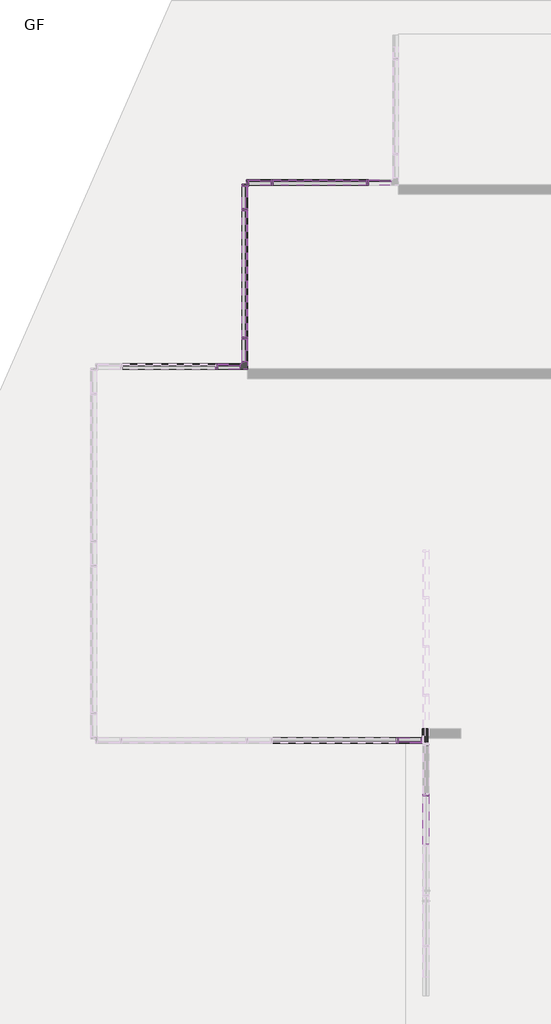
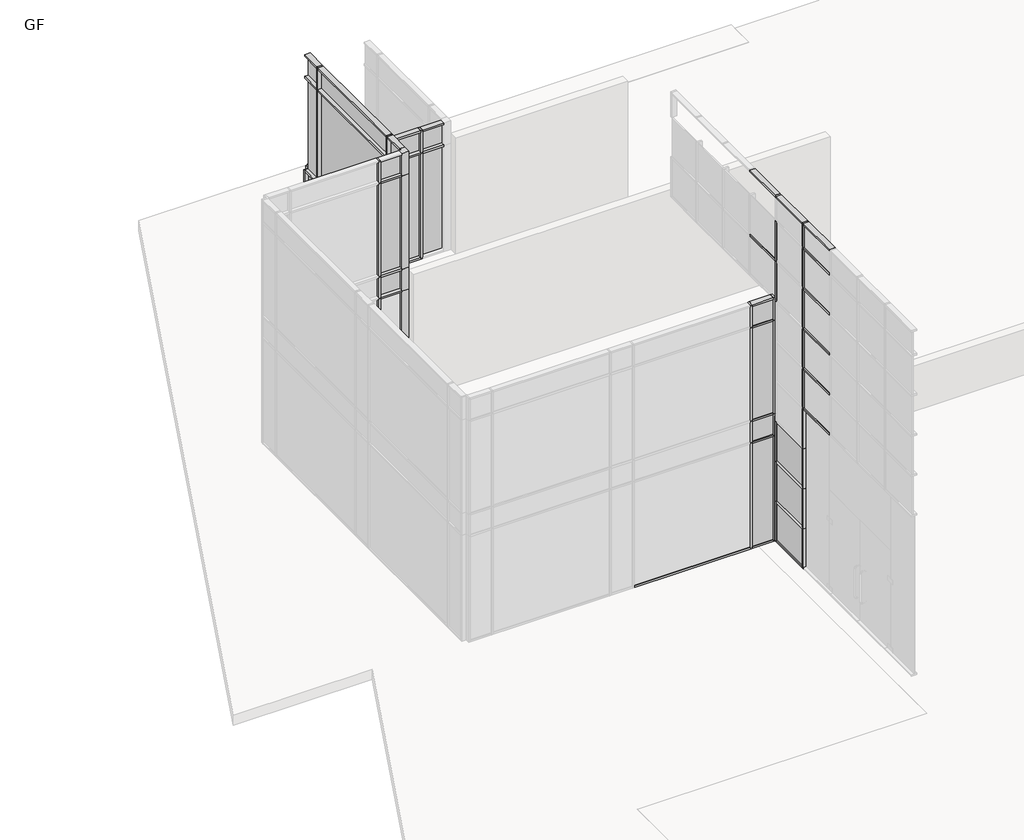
# One storey, part 14 of 23: 88 members, 28 plates, 1 wall.
"""IFC4 building model written with IfcOpenShell, lengths in millimetres."""

from ifc_helpers import new_model, si_unit, origin, place, context, project, spatial, faceted_brep, transform, mapped, element, save
from components import l_corner_mullion_l_mullion_1_9cd6cbfc, l_corner_mullion_l_mullion_1_b1a998e5, l_corner_mullion_l_mullion_1_19861a08, l_corner_mullion_l_mullion_1_830c55f5, rectangular_mullion_50_x_150mm_64d38db8, rectangular_mullion_50_x_150mm_68b3818a, rectangular_mullion_50_x_150mm_0240cd64, rectangular_mullion_50_x_150mm_d11e3bb4, rectangular_mullion_50_x_150mm_7d543e93, rectangular_mullion_50_x_150mm_9e0f1e24, rectangular_mullion_50_x_150mm_9b8962c0, rectangular_mullion_50_x_150mm_32aaa733, rectangular_mullion_50_x_150mm_eae7d4bc, rectangular_mullion_50_x_150mm_dbb82e9e, rectangular_mullion_50_x_150mm_eaf4cf72, rectangular_mullion_50_x_150mm_edc7ebc1, rectangular_mullion_50_x_150mm_24ac0887, rectangular_mullion_50_x_150mm_86a57cfb, rectangular_mullion_50_x_150mm_53b4c1bd, rectangular_mullion_50_x_150mm_a5886fcf, rectangular_mullion_50_x_150mm_d99dc9be, rectangular_mullion_50_x_150mm_6588f46c, rectangular_mullion_50_x_150mm_73a7075e, rectangular_mullion_50_x_150mm_457f9466, rectangular_mullion_50_x_150mm_a24dcaed, rectangular_mullion_50_x_150mm_2a846207, v_corner_mullion_v_mullion_1_7bbb4fbd, v_corner_mullion_v_mullion_1_ba732962, system_panel_glazed_24812111, system_panel_glazed_e5239730, system_panel_glazed_6ff5b55b, system_panel_glazed_93ed122c, system_panel_glazed_a7232eb8, system_panel_glazed_2ee935f9, system_panel_glazed_98bb05ca, system_panel_glazed_9694b00d, system_panel_glazed_772a6538, system_panel_glazed_8d3b8640, system_panel_glazed_208994a9, system_panel_glazed_4108eabc, system_panel_glazed_1cdce68f

model = new_model("IFC4")

# Units and contexts
model_context = context("Model", 3, world=origin())
ifc_project = project(units=[si_unit("LENGTHUNIT", "METRE", prefix="MILLI")], contexts=[model_context])

# Site, building, storey
site = spatial("IfcSite", under=ifc_project)
building = spatial("IfcBuilding", under=site)
storey = spatial("IfcBuildingStorey", under=building, Name="GF", Elevation=900.0)

# Members
placement = place(None, origin())
l_corner_mullion_l_mullion_1_shape = l_corner_mullion_l_mullion_1_9cd6cbfc(model_context)
element("IfcMember", 1, ObjectType="L Corner Mullion : L Mullion 1", at=placement, inside=storey, context=model_context, shape_type="MappedRepresentation", body=[
    mapped(l_corner_mullion_l_mullion_1_shape, transform((-35612.5865899, 11722.3851347, 8200.0), x_axis=(0.0, -1.0, 0.0), y_axis=(1.0, 0.0, 0.0), z_axis=(0.0, 0.0, 1.0))),
])
l_corner_mullion_l_mullion_1_2_shape = l_corner_mullion_l_mullion_1_b1a998e5(model_context)
element("IfcMember", 2, ObjectType="L Corner Mullion : L Mullion 1", at=placement, inside=storey, context=model_context, shape_type="MappedRepresentation", body=[
    mapped(l_corner_mullion_l_mullion_1_2_shape, transform((-35612.5865899, 11722.3851347, 4725.0), x_axis=(0.0, -1.0, 0.0), y_axis=(1.0, 0.0, 0.0), z_axis=(0.0, 0.0, 1.0))),
])
l_corner_mullion_l_mullion_1_3_shape = l_corner_mullion_l_mullion_1_19861a08(model_context)
element("IfcMember", 3, ObjectType="L Corner Mullion : L Mullion 1", at=placement, inside=storey, context=model_context, shape_type="MappedRepresentation", body=[
    mapped(l_corner_mullion_l_mullion_1_3_shape, transform((-35612.5865899, 11722.3851347, 4075.0), x_axis=(0.0, -1.0, 0.0), y_axis=(1.0, 0.0, 0.0), z_axis=(0.0, 0.0, 1.0))),
])
l_corner_mullion_l_mullion_1_4_shape = l_corner_mullion_l_mullion_1_830c55f5(model_context)
element("IfcMember", 4, ObjectType="L Corner Mullion : L Mullion 1", at=placement, inside=storey, context=model_context, shape_type="MappedRepresentation", body=[
    mapped(l_corner_mullion_l_mullion_1_4_shape, transform((-35612.5865899, 11722.3851347, 7525.0), x_axis=(0.0, -1.0, 0.0), y_axis=(1.0, 0.0, 0.0), z_axis=(0.0, 0.0, 1.0))),
])
rectangular_mullion_50_x_150mm_shape = rectangular_mullion_50_x_150mm_64d38db8(model_context)
element("IfcMember", 5, ObjectType="Rectangular Mullion : 50 x 150mm", at=placement, inside=storey, context=model_context, shape_type="MappedRepresentation", body=[
    mapped(rectangular_mullion_50_x_150mm_shape, transform((-31537.5865899, 1822.3851347, 8200.0), x_axis=(0.0, 0.0, 1.0), y_axis=(0.0, 1.0, 0.0), z_axis=(-1.0, 0.0, 0.0))),
])
element("IfcMember", 6, ObjectType="Rectangular Mullion : 50 x 150mm", at=placement, inside=storey, context=model_context, shape_type="MappedRepresentation", body=[
    mapped(rectangular_mullion_50_x_150mm_shape, transform((-30937.5865899, 1822.3851347, 900.0), x_axis=(0.0, 0.0, -1.0), y_axis=(0.0, 1.0, 0.0), z_axis=(1.0, 0.0, 0.0))),
])
rectangular_mullion_50_x_150mm_2_shape = rectangular_mullion_50_x_150mm_68b3818a(model_context)
element("IfcMember", 7, ObjectType="Rectangular Mullion : 50 x 150mm", at=placement, inside=storey, context=model_context, shape_type="MappedRepresentation", body=[
    mapped(rectangular_mullion_50_x_150mm_2_shape, transform((-31537.5865899, 1822.3851347, 7525.0), x_axis=(0.0, 0.0, 1.0), y_axis=(0.0, 1.0, 0.0), z_axis=(-1.0, 0.0, 0.0))),
])
element("IfcMember", 8, ObjectType="Rectangular Mullion : 50 x 150mm", at=placement, inside=storey, context=model_context, shape_type="MappedRepresentation", body=[
    mapped(rectangular_mullion_50_x_150mm_2_shape, transform((-31537.5865899, 1822.3851347, 4075.0), x_axis=(0.0, 0.0, 1.0), y_axis=(0.0, 1.0, 0.0), z_axis=(-1.0, 0.0, 0.0))),
])
element("IfcMember", 9, ObjectType="Rectangular Mullion : 50 x 150mm", at=placement, inside=storey, context=model_context, shape_type="MappedRepresentation", body=[
    mapped(rectangular_mullion_50_x_150mm_2_shape, transform((-31537.5865899, 1822.3851347, 4725.0), x_axis=(0.0, 0.0, 1.0), y_axis=(0.0, 1.0, 0.0), z_axis=(-1.0, 0.0, 0.0))),
])
element("IfcMember", 10, ObjectType="Rectangular Mullion : 50 x 150mm", at=placement, inside=storey, context=model_context, shape_type="MappedRepresentation", body=[
    mapped(rectangular_mullion_50_x_150mm_shape, transform((-35612.5865899, 16497.3851347, 8200.0), x_axis=(0.0, 0.0, 1.0), y_axis=(1.0, 0.0, 0.0), z_axis=(0.0, 1.0, 0.0))),
])
element("IfcMember", 11, ObjectType="Rectangular Mullion : 50 x 150mm", at=placement, inside=storey, context=model_context, shape_type="MappedRepresentation", body=[
    mapped(rectangular_mullion_50_x_150mm_shape, transform((-35512.5865899, 16597.3851347, 4750.0), x_axis=(0.0, 0.0, 1.0), y_axis=(0.0, 1.0, 0.0), z_axis=(-1.0, 0.0, 0.0))),
])
element("IfcMember", 12, ObjectType="Rectangular Mullion : 50 x 150mm", at=placement, inside=storey, context=model_context, shape_type="MappedRepresentation", body=[
    mapped(rectangular_mullion_50_x_150mm_shape, transform((-32337.5865899, 16597.3851347, 4750.0), x_axis=(0.0, 0.0, 1.0), y_axis=(0.0, 1.0, 0.0), z_axis=(-1.0, 0.0, 0.0))),
])
element("IfcMember", 13, ObjectType="Rectangular Mullion : 50 x 150mm", at=placement, inside=storey, context=model_context, shape_type="MappedRepresentation", body=[
    mapped(rectangular_mullion_50_x_150mm_shape, transform((-35612.5865899, 12447.3851347, 8200.0), x_axis=(0.0, 0.0, 1.0), y_axis=(1.0, 0.0, 0.0), z_axis=(0.0, 1.0, 0.0))),
])
element("IfcMember", 14, ObjectType="Rectangular Mullion : 50 x 150mm", at=placement, inside=storey, context=model_context, shape_type="MappedRepresentation", body=[
    mapped(rectangular_mullion_50_x_150mm_shape, transform((-35737.5865899, 11722.3851347, 900.0), x_axis=(0.0, 0.0, -1.0), y_axis=(0.0, 1.0, 0.0), z_axis=(1.0, 0.0, 0.0))),
])
element("IfcMember", 15, ObjectType="Rectangular Mullion : 50 x 150mm", at=placement, inside=storey, context=model_context, shape_type="MappedRepresentation", body=[
    mapped(rectangular_mullion_50_x_150mm_shape, transform((-35612.5865899, 11847.3851347, 900.0), x_axis=(0.0, 0.0, -1.0), y_axis=(1.0, 0.0, 0.0), z_axis=(0.0, -1.0, 0.0))),
])
element("IfcMember", 16, ObjectType="Rectangular Mullion : 50 x 150mm", at=placement, inside=storey, context=model_context, shape_type="MappedRepresentation", body=[
    mapped(rectangular_mullion_50_x_150mm_shape, transform((-34912.5865899, 16597.3851347, 900.0), x_axis=(0.0, 0.0, -1.0), y_axis=(0.0, 1.0, 0.0), z_axis=(1.0, 0.0, 0.0))),
])
element("IfcMember", 17, ObjectType="Rectangular Mullion : 50 x 150mm", at=placement, inside=storey, context=model_context, shape_type="MappedRepresentation", body=[
    mapped(rectangular_mullion_50_x_150mm_shape, transform((-35612.5865899, 15897.3851347, 900.0), x_axis=(0.0, 0.0, -1.0), y_axis=(1.0, 0.0, 0.0), z_axis=(0.0, -1.0, 0.0))),
])
element("IfcMember", 18, ObjectType="Rectangular Mullion : 50 x 150mm", at=placement, inside=storey, context=model_context, shape_type="MappedRepresentation", body=[
    mapped(rectangular_mullion_50_x_150mm_2_shape, transform((-36337.5865899, 11722.3851347, 7525.0), x_axis=(0.0, 0.0, 1.0), y_axis=(0.0, 1.0, 0.0), z_axis=(-1.0, 0.0, 0.0))),
])
element("IfcMember", 19, ObjectType="Rectangular Mullion : 50 x 150mm", at=placement, inside=storey, context=model_context, shape_type="MappedRepresentation", body=[
    mapped(rectangular_mullion_50_x_150mm_2_shape, transform((-36337.5865899, 11722.3851347, 4725.0), x_axis=(0.0, 0.0, 1.0), y_axis=(0.0, 1.0, 0.0), z_axis=(-1.0, 0.0, 0.0))),
])
element("IfcMember", 20, ObjectType="Rectangular Mullion : 50 x 150mm", at=placement, inside=storey, context=model_context, shape_type="MappedRepresentation", body=[
    mapped(rectangular_mullion_50_x_150mm_2_shape, transform((-36337.5865899, 11722.3851347, 4075.0), x_axis=(0.0, 0.0, 1.0), y_axis=(0.0, 1.0, 0.0), z_axis=(-1.0, 0.0, 0.0))),
])
element("IfcMember", 21, ObjectType="Rectangular Mullion : 50 x 150mm", at=placement, inside=storey, context=model_context, shape_type="MappedRepresentation", body=[
    mapped(rectangular_mullion_50_x_150mm_2_shape, transform((-32337.5865899, 16597.3851347, 4075.0), x_axis=(0.0, 0.0, 1.0), y_axis=(0.0, 1.0, 0.0), z_axis=(-1.0, 0.0, 0.0))),
])
element("IfcMember", 22, ObjectType="Rectangular Mullion : 50 x 150mm", at=placement, inside=storey, context=model_context, shape_type="MappedRepresentation", body=[
    mapped(rectangular_mullion_50_x_150mm_2_shape, transform((-35612.5865899, 12447.3851347, 4725.0), x_axis=(0.0, 0.0, 1.0), y_axis=(1.0, 0.0, 0.0), z_axis=(0.0, 1.0, 0.0))),
])
element("IfcMember", 23, ObjectType="Rectangular Mullion : 50 x 150mm", at=placement, inside=storey, context=model_context, shape_type="MappedRepresentation", body=[
    mapped(rectangular_mullion_50_x_150mm_2_shape, transform((-35612.5865899, 12447.3851347, 4075.0), x_axis=(0.0, 0.0, 1.0), y_axis=(1.0, 0.0, 0.0), z_axis=(0.0, 1.0, 0.0))),
])
element("IfcMember", 24, ObjectType="Rectangular Mullion : 50 x 150mm", at=placement, inside=storey, context=model_context, shape_type="MappedRepresentation", body=[
    mapped(rectangular_mullion_50_x_150mm_2_shape, transform((-35512.5865899, 16597.3851347, 4075.0), x_axis=(0.0, 0.0, 1.0), y_axis=(0.0, 1.0, 0.0), z_axis=(-1.0, 0.0, 0.0))),
])
element("IfcMember", 25, ObjectType="Rectangular Mullion : 50 x 150mm", at=placement, inside=storey, context=model_context, shape_type="MappedRepresentation", body=[
    mapped(rectangular_mullion_50_x_150mm_2_shape, transform((-35612.5865899, 16497.3851347, 4075.0), x_axis=(0.0, 0.0, 1.0), y_axis=(1.0, 0.0, 0.0), z_axis=(0.0, 1.0, 0.0))),
])
element("IfcMember", 26, ObjectType="Rectangular Mullion : 50 x 150mm", at=placement, inside=storey, context=model_context, shape_type="MappedRepresentation", body=[
    mapped(rectangular_mullion_50_x_150mm_2_shape, transform((-35612.5865899, 16497.3851347, 4725.0), x_axis=(0.0, 0.0, 1.0), y_axis=(1.0, 0.0, 0.0), z_axis=(0.0, 1.0, 0.0))),
])
element("IfcMember", 27, ObjectType="Rectangular Mullion : 50 x 150mm", at=placement, inside=storey, context=model_context, shape_type="MappedRepresentation", body=[
    mapped(rectangular_mullion_50_x_150mm_2_shape, transform((-35612.5865899, 12447.3851347, 7525.0), x_axis=(0.0, 0.0, 1.0), y_axis=(1.0, 0.0, 0.0), z_axis=(0.0, 1.0, 0.0))),
])
element("IfcMember", 28, ObjectType="Rectangular Mullion : 50 x 150mm", at=placement, inside=storey, context=model_context, shape_type="MappedRepresentation", body=[
    mapped(rectangular_mullion_50_x_150mm_2_shape, transform((-35612.5865899, 16497.3851347, 7525.0), x_axis=(0.0, 0.0, 1.0), y_axis=(1.0, 0.0, 0.0), z_axis=(0.0, 1.0, 0.0))),
])
rectangular_mullion_50_x_150mm_3_shape = rectangular_mullion_50_x_150mm_0240cd64(model_context)
element("IfcMember", 29, ObjectType="Rectangular Mullion : 50 x 150mm", at=placement, inside=storey, context=model_context, shape_type="MappedRepresentation", body=[
    mapped(rectangular_mullion_50_x_150mm_3_shape, transform((-34862.5865899, 16597.3851347, 4750.0), x_axis=(0.0, 0.0, 1.0), y_axis=(0.0, 1.0, 0.0), z_axis=(-1.0, 0.0, 0.0))),
])
element("IfcMember", 30, ObjectType="Rectangular Mullion : 50 x 150mm", at=placement, inside=storey, context=model_context, shape_type="MappedRepresentation", body=[
    mapped(rectangular_mullion_50_x_150mm_3_shape, transform((-36387.5865899, 11722.3851347, 900.0), x_axis=(0.0, 0.0, -1.0), y_axis=(0.0, 1.0, 0.0), z_axis=(1.0, 0.0, 0.0))),
])
element("IfcMember", 31, ObjectType="Rectangular Mullion : 50 x 150mm", at=placement, inside=storey, context=model_context, shape_type="MappedRepresentation", body=[
    mapped(rectangular_mullion_50_x_150mm_3_shape, transform((-32387.5865899, 16597.3851347, 900.0), x_axis=(0.0, 0.0, -1.0), y_axis=(0.0, 1.0, 0.0), z_axis=(1.0, 0.0, 0.0))),
])
rectangular_mullion_50_x_150mm_4_shape = rectangular_mullion_50_x_150mm_d11e3bb4(model_context)
element("IfcMember", 32, ObjectType="Rectangular Mullion : 50 x 150mm", at=placement, inside=storey, context=model_context, shape_type="MappedRepresentation", body=[
    mapped(rectangular_mullion_50_x_150mm_4_shape, transform((-31562.5865899, 1822.3851347, 4725.0), x_axis=(-1.0, 0.0, 0.0), y_axis=(0.0, 1.0, 0.0), z_axis=(0.0, 0.0, -1.0))),
])
rectangular_mullion_50_x_150mm_5_shape = rectangular_mullion_50_x_150mm_7d543e93(model_context)
element("IfcMember", 33, ObjectType="Rectangular Mullion : 50 x 150mm", at=placement, inside=storey, context=model_context, shape_type="MappedRepresentation", body=[
    mapped(rectangular_mullion_50_x_150mm_5_shape, transform((-31562.5865899, 1822.3851347, 4075.0), x_axis=(-1.0, 0.0, 0.0), y_axis=(0.0, 1.0, 0.0), z_axis=(0.0, 0.0, -1.0))),
])
rectangular_mullion_50_x_150mm_6_shape = rectangular_mullion_50_x_150mm_9e0f1e24(model_context)
element("IfcMember", 34, ObjectType="Rectangular Mullion : 50 x 150mm", at=placement, inside=storey, context=model_context, shape_type="MappedRepresentation", body=[
    mapped(rectangular_mullion_50_x_150mm_6_shape, transform((-31562.5865899, 1822.3851347, 7525.0), x_axis=(-1.0, 0.0, 0.0), y_axis=(0.0, 1.0, 0.0), z_axis=(0.0, 0.0, -1.0))),
])
rectangular_mullion_50_x_150mm_7_shape = rectangular_mullion_50_x_150mm_9b8962c0(model_context)
element("IfcMember", 35, ObjectType="Rectangular Mullion : 50 x 150mm", at=placement, inside=storey, context=model_context, shape_type="MappedRepresentation", body=[
    mapped(rectangular_mullion_50_x_150mm_7_shape, transform((-30887.5865899, 1822.3851347, 4725.0), x_axis=(1.0, 0.0, 0.0), y_axis=(0.0, 1.0, 0.0), z_axis=(0.0, 0.0, 1.0))),
])
rectangular_mullion_50_x_150mm_8_shape = rectangular_mullion_50_x_150mm_32aaa733(model_context)
element("IfcMember", 36, ObjectType="Rectangular Mullion : 50 x 150mm", at=placement, inside=storey, context=model_context, shape_type="MappedRepresentation", body=[
    mapped(rectangular_mullion_50_x_150mm_8_shape, transform((-30887.5865899, 1822.3851347, 7525.0), x_axis=(1.0, 0.0, 0.0), y_axis=(0.0, 1.0, 0.0), z_axis=(0.0, 0.0, 1.0))),
])
element("IfcMember", 37, ObjectType="Rectangular Mullion : 50 x 150mm", at=placement, inside=storey, context=model_context, shape_type="MappedRepresentation", body=[
    mapped(rectangular_mullion_50_x_150mm_4_shape, transform((-36362.5865899, 11722.3851347, 4725.0), x_axis=(-1.0, 0.0, 0.0), y_axis=(0.0, 1.0, 0.0), z_axis=(0.0, 0.0, -1.0))),
])
element("IfcMember", 38, ObjectType="Rectangular Mullion : 50 x 150mm", at=placement, inside=storey, context=model_context, shape_type="MappedRepresentation", body=[
    mapped(rectangular_mullion_50_x_150mm_4_shape, transform((-35612.5865899, 15872.3851347, 4725.0), x_axis=(0.0, 1.0, 0.0), y_axis=(1.0, 0.0, 0.0), z_axis=(0.0, 0.0, -1.0))),
])
element("IfcMember", 39, ObjectType="Rectangular Mullion : 50 x 150mm", at=placement, inside=storey, context=model_context, shape_type="MappedRepresentation", body=[
    mapped(rectangular_mullion_50_x_150mm_4_shape, transform((-35612.5865899, 12472.3851347, 4725.0), x_axis=(0.0, 1.0, 0.0), y_axis=(1.0, 0.0, 0.0), z_axis=(0.0, 0.0, -1.0))),
])
element("IfcMember", 40, ObjectType="Rectangular Mullion : 50 x 150mm", at=placement, inside=storey, context=model_context, shape_type="MappedRepresentation", body=[
    mapped(rectangular_mullion_50_x_150mm_5_shape, transform((-36362.5865899, 11722.3851347, 4075.0), x_axis=(-1.0, 0.0, 0.0), y_axis=(0.0, 1.0, 0.0), z_axis=(0.0, 0.0, -1.0))),
])
element("IfcMember", 41, ObjectType="Rectangular Mullion : 50 x 150mm", at=placement, inside=storey, context=model_context, shape_type="MappedRepresentation", body=[
    mapped(rectangular_mullion_50_x_150mm_5_shape, transform((-35612.5865899, 15872.3851347, 4075.0), x_axis=(0.0, 1.0, 0.0), y_axis=(1.0, 0.0, 0.0), z_axis=(0.0, 0.0, -1.0))),
])
element("IfcMember", 42, ObjectType="Rectangular Mullion : 50 x 150mm", at=placement, inside=storey, context=model_context, shape_type="MappedRepresentation", body=[
    mapped(rectangular_mullion_50_x_150mm_5_shape, transform((-35612.5865899, 12472.3851347, 4075.0), x_axis=(0.0, 1.0, 0.0), y_axis=(1.0, 0.0, 0.0), z_axis=(0.0, 0.0, -1.0))),
])
element("IfcMember", 43, ObjectType="Rectangular Mullion : 50 x 150mm", at=placement, inside=storey, context=model_context, shape_type="MappedRepresentation", body=[
    mapped(rectangular_mullion_50_x_150mm_6_shape, transform((-36362.5865899, 11722.3851347, 7525.0), x_axis=(-1.0, 0.0, 0.0), y_axis=(0.0, 1.0, 0.0), z_axis=(0.0, 0.0, -1.0))),
])
element("IfcMember", 44, ObjectType="Rectangular Mullion : 50 x 150mm", at=placement, inside=storey, context=model_context, shape_type="MappedRepresentation", body=[
    mapped(rectangular_mullion_50_x_150mm_6_shape, transform((-34887.5865899, 16597.3851347, 4075.0), x_axis=(-1.0, 0.0, 0.0), y_axis=(0.0, 1.0, 0.0), z_axis=(0.0, 0.0, -1.0))),
])
element("IfcMember", 45, ObjectType="Rectangular Mullion : 50 x 150mm", at=placement, inside=storey, context=model_context, shape_type="MappedRepresentation", body=[
    mapped(rectangular_mullion_50_x_150mm_6_shape, transform((-32362.5865899, 16597.3851347, 4075.0), x_axis=(-1.0, 0.0, 0.0), y_axis=(0.0, 1.0, 0.0), z_axis=(0.0, 0.0, -1.0))),
])
element("IfcMember", 46, ObjectType="Rectangular Mullion : 50 x 150mm", at=placement, inside=storey, context=model_context, shape_type="MappedRepresentation", body=[
    mapped(rectangular_mullion_50_x_150mm_6_shape, transform((-35612.5865899, 12472.3851347, 7525.0), x_axis=(0.0, 1.0, 0.0), y_axis=(1.0, 0.0, 0.0), z_axis=(0.0, 0.0, -1.0))),
])
element("IfcMember", 47, ObjectType="Rectangular Mullion : 50 x 150mm", at=placement, inside=storey, context=model_context, shape_type="MappedRepresentation", body=[
    mapped(rectangular_mullion_50_x_150mm_6_shape, transform((-35612.5865899, 15872.3851347, 7525.0), x_axis=(0.0, 1.0, 0.0), y_axis=(1.0, 0.0, 0.0), z_axis=(0.0, 0.0, -1.0))),
])
rectangular_mullion_50_x_150mm_9_shape = rectangular_mullion_50_x_150mm_eae7d4bc(model_context)
element("IfcMember", 48, ObjectType="Rectangular Mullion : 50 x 150mm", at=placement, inside=storey, context=model_context, shape_type="MappedRepresentation", body=[
    mapped(rectangular_mullion_50_x_150mm_9_shape, transform((-31562.5865899, 1822.3851347, 900.0), x_axis=(-1.0, 0.0, 0.0), y_axis=(0.0, 1.0, 0.0), z_axis=(0.0, 0.0, -1.0))),
])
element("IfcMember", 49, ObjectType="Rectangular Mullion : 50 x 150mm", at=placement, inside=storey, context=model_context, shape_type="MappedRepresentation", body=[
    mapped(rectangular_mullion_50_x_150mm_9_shape, transform((-36362.5865899, 11722.3851347, 900.0), x_axis=(-1.0, 0.0, 0.0), y_axis=(0.0, 1.0, 0.0), z_axis=(0.0, 0.0, -1.0))),
])
element("IfcMember", 50, ObjectType="Rectangular Mullion : 50 x 150mm", at=placement, inside=storey, context=model_context, shape_type="MappedRepresentation", body=[
    mapped(rectangular_mullion_50_x_150mm_9_shape, transform((-34887.5865899, 16597.3851347, 900.0), x_axis=(-1.0, 0.0, 0.0), y_axis=(0.0, 1.0, 0.0), z_axis=(0.0, 0.0, -1.0))),
])
element("IfcMember", 51, ObjectType="Rectangular Mullion : 50 x 150mm", at=placement, inside=storey, context=model_context, shape_type="MappedRepresentation", body=[
    mapped(rectangular_mullion_50_x_150mm_9_shape, transform((-32362.5865899, 16597.3851347, 900.0), x_axis=(-1.0, 0.0, 0.0), y_axis=(0.0, 1.0, 0.0), z_axis=(0.0, 0.0, -1.0))),
])
element("IfcMember", 52, ObjectType="Rectangular Mullion : 50 x 150mm", at=placement, inside=storey, context=model_context, shape_type="MappedRepresentation", body=[
    mapped(rectangular_mullion_50_x_150mm_9_shape, transform((-35612.5865899, 15872.3851347, 900.0), x_axis=(0.0, 1.0, 0.0), y_axis=(1.0, 0.0, 0.0), z_axis=(0.0, 0.0, -1.0))),
])
element("IfcMember", 53, ObjectType="Rectangular Mullion : 50 x 150mm", at=placement, inside=storey, context=model_context, shape_type="MappedRepresentation", body=[
    mapped(rectangular_mullion_50_x_150mm_9_shape, transform((-35612.5865899, 12472.3851347, 900.0), x_axis=(0.0, 1.0, 0.0), y_axis=(1.0, 0.0, 0.0), z_axis=(0.0, 0.0, -1.0))),
])
rectangular_mullion_50_x_150mm_10_shape = rectangular_mullion_50_x_150mm_dbb82e9e(model_context)
element("IfcMember", 54, ObjectType="Rectangular Mullion : 50 x 150mm", at=placement, inside=storey, context=model_context, shape_type="MappedRepresentation", body=[
    mapped(rectangular_mullion_50_x_150mm_10_shape, transform((-30887.5865899, 1822.3851347, 8200.0), x_axis=(1.0, 0.0, 0.0), y_axis=(0.0, 1.0, 0.0), z_axis=(0.0, 0.0, 1.0))),
])
rectangular_mullion_50_x_150mm_11_shape = rectangular_mullion_50_x_150mm_eaf4cf72(model_context)
element("IfcMember", 55, ObjectType="Rectangular Mullion : 50 x 150mm", at=placement, inside=storey, context=model_context, shape_type="MappedRepresentation", body=[
    mapped(rectangular_mullion_50_x_150mm_11_shape, transform((-30887.5865899, 1822.3851347, 4075.0), x_axis=(1.0, 0.0, 0.0), y_axis=(0.0, 1.0, 0.0), z_axis=(0.0, 0.0, 1.0))),
])
rectangular_mullion_50_x_150mm_12_shape = rectangular_mullion_50_x_150mm_edc7ebc1(model_context)
element("IfcMember", 56, ObjectType="Rectangular Mullion : 50 x 150mm", at=placement, inside=storey, context=model_context, shape_type="MappedRepresentation", body=[
    mapped(rectangular_mullion_50_x_150mm_12_shape, transform((-34862.5865899, 16597.3851347, 4075.0), x_axis=(0.0, 0.0, 1.0), y_axis=(0.0, 1.0, 0.0), z_axis=(-1.0, 0.0, 0.0))),
])
rectangular_mullion_50_x_150mm_13_shape = rectangular_mullion_50_x_150mm_24ac0887(model_context)
element("IfcMember", 57, ObjectType="Rectangular Mullion : 50 x 150mm", at=placement, inside=storey, context=model_context, shape_type="MappedRepresentation", body=[
    mapped(rectangular_mullion_50_x_150mm_13_shape, transform((-35612.5865899, 15847.3851347, 8200.0), x_axis=(0.0, 0.0, 1.0), y_axis=(1.0, 0.0, 0.0), z_axis=(0.0, 1.0, 0.0))),
])
element("IfcMember", 58, ObjectType="Rectangular Mullion : 50 x 150mm", at=placement, inside=storey, context=model_context, shape_type="MappedRepresentation", body=[
    mapped(rectangular_mullion_50_x_150mm_13_shape, transform((-35612.5865899, 12497.3851347, 900.0), x_axis=(0.0, 0.0, -1.0), y_axis=(1.0, 0.0, 0.0), z_axis=(0.0, -1.0, 0.0))),
])
rectangular_mullion_50_x_150mm_14_shape = rectangular_mullion_50_x_150mm_86a57cfb(model_context)
element("IfcMember", 59, ObjectType="Rectangular Mullion : 50 x 150mm", at=placement, inside=storey, context=model_context, shape_type="MappedRepresentation", body=[
    mapped(rectangular_mullion_50_x_150mm_14_shape, transform((-35612.5865899, 15847.3851347, 4075.0), x_axis=(0.0, 0.0, 1.0), y_axis=(1.0, 0.0, 0.0), z_axis=(0.0, 1.0, 0.0))),
])
element("IfcMember", 60, ObjectType="Rectangular Mullion : 50 x 150mm", at=placement, inside=storey, context=model_context, shape_type="MappedRepresentation", body=[
    mapped(rectangular_mullion_50_x_150mm_14_shape, transform((-35612.5865899, 15847.3851347, 4725.0), x_axis=(0.0, 0.0, 1.0), y_axis=(1.0, 0.0, 0.0), z_axis=(0.0, 1.0, 0.0))),
])
element("IfcMember", 61, ObjectType="Rectangular Mullion : 50 x 150mm", at=placement, inside=storey, context=model_context, shape_type="MappedRepresentation", body=[
    mapped(rectangular_mullion_50_x_150mm_14_shape, transform((-35612.5865899, 15847.3851347, 7525.0), x_axis=(0.0, 0.0, 1.0), y_axis=(1.0, 0.0, 0.0), z_axis=(0.0, 1.0, 0.0))),
])
rectangular_mullion_50_x_150mm_15_shape = rectangular_mullion_50_x_150mm_53b4c1bd(model_context)
element("IfcMember", 62, ObjectType="Rectangular Mullion : 50 x 150mm", at=placement, inside=storey, context=model_context, shape_type="MappedRepresentation", body=[
    mapped(rectangular_mullion_50_x_150mm_15_shape, transform((-30812.5865899, 1697.3851347, 11250.0), x_axis=(0.0, 0.0, 1.0), y_axis=(1.0, 0.0, 0.0), z_axis=(0.0, 1.0, 0.0))),
])
element("IfcMember", 63, ObjectType="Rectangular Mullion : 50 x 150mm", at=placement, inside=storey, context=model_context, shape_type="MappedRepresentation", body=[
    mapped(rectangular_mullion_50_x_150mm_15_shape, transform((-30812.5865899, 360.7184681, 11250.0), x_axis=(0.0, 0.0, 1.0), y_axis=(1.0, 0.0, 0.0), z_axis=(0.0, 1.0, 0.0))),
])
rectangular_mullion_50_x_150mm_16_shape = rectangular_mullion_50_x_150mm_a5886fcf(model_context)
element("IfcMember", 64, ObjectType="Rectangular Mullion : 50 x 150mm", at=placement, inside=storey, context=model_context, shape_type="MappedRepresentation", body=[
    mapped(rectangular_mullion_50_x_150mm_16_shape, transform((-30812.5865899, 360.7184681, 9300.0), x_axis=(0.0, 0.0, 1.0), y_axis=(1.0, 0.0, 0.0), z_axis=(0.0, 1.0, 0.0))),
])
element("IfcMember", 65, ObjectType="Rectangular Mullion : 50 x 150mm", at=placement, inside=storey, context=model_context, shape_type="MappedRepresentation", body=[
    mapped(rectangular_mullion_50_x_150mm_16_shape, transform((-30812.5865899, 360.7184681, 10500.0), x_axis=(0.0, 0.0, 1.0), y_axis=(1.0, 0.0, 0.0), z_axis=(0.0, 1.0, 0.0))),
])
element("IfcMember", 66, ObjectType="Rectangular Mullion : 50 x 150mm", at=placement, inside=storey, context=model_context, shape_type="MappedRepresentation", body=[
    mapped(rectangular_mullion_50_x_150mm_16_shape, transform((-30812.5865899, 360.7184681, 5700.0), x_axis=(0.0, 0.0, 1.0), y_axis=(1.0, 0.0, 0.0), z_axis=(0.0, 1.0, 0.0))),
])
element("IfcMember", 67, ObjectType="Rectangular Mullion : 50 x 150mm", at=placement, inside=storey, context=model_context, shape_type="MappedRepresentation", body=[
    mapped(rectangular_mullion_50_x_150mm_16_shape, transform((-30812.5865899, 360.7184681, 6900.0), x_axis=(0.0, 0.0, 1.0), y_axis=(1.0, 0.0, 0.0), z_axis=(0.0, 1.0, 0.0))),
])
element("IfcMember", 68, ObjectType="Rectangular Mullion : 50 x 150mm", at=placement, inside=storey, context=model_context, shape_type="MappedRepresentation", body=[
    mapped(rectangular_mullion_50_x_150mm_16_shape, transform((-30812.5865899, 360.7184681, 8100.0), x_axis=(0.0, 0.0, 1.0), y_axis=(1.0, 0.0, 0.0), z_axis=(0.0, 1.0, 0.0))),
])
rectangular_mullion_50_x_150mm_17_shape = rectangular_mullion_50_x_150mm_d99dc9be(model_context)
element("IfcMember", 69, ObjectType="Rectangular Mullion : 50 x 150mm", at=placement, inside=storey, context=model_context, shape_type="MappedRepresentation", body=[
    mapped(rectangular_mullion_50_x_150mm_17_shape, transform((-30812.5865899, 385.7184681, 900.0), x_axis=(0.0, 1.0, 0.0), y_axis=(1.0, 0.0, 0.0), z_axis=(0.0, 0.0, -1.0))),
])
element("IfcMember", 70, ObjectType="Rectangular Mullion : 50 x 150mm", at=placement, inside=storey, context=model_context, shape_type="MappedRepresentation", body=[
    mapped(rectangular_mullion_50_x_150mm_17_shape, transform((-30812.5865899, 385.7184681, 8100.0), x_axis=(0.0, 1.0, 0.0), y_axis=(1.0, 0.0, 0.0), z_axis=(0.0, 0.0, -1.0))),
])
element("IfcMember", 71, ObjectType="Rectangular Mullion : 50 x 150mm", at=placement, inside=storey, context=model_context, shape_type="MappedRepresentation", body=[
    mapped(rectangular_mullion_50_x_150mm_17_shape, transform((-30812.5865899, 385.7184681, 9300.0), x_axis=(0.0, 1.0, 0.0), y_axis=(1.0, 0.0, 0.0), z_axis=(0.0, 0.0, -1.0))),
])
element("IfcMember", 72, ObjectType="Rectangular Mullion : 50 x 150mm", at=placement, inside=storey, context=model_context, shape_type="MappedRepresentation", body=[
    mapped(rectangular_mullion_50_x_150mm_17_shape, transform((-30812.5865899, 385.7184681, 2100.0), x_axis=(0.0, 1.0, 0.0), y_axis=(1.0, 0.0, 0.0), z_axis=(0.0, 0.0, -1.0))),
])
element("IfcMember", 73, ObjectType="Rectangular Mullion : 50 x 150mm", at=placement, inside=storey, context=model_context, shape_type="MappedRepresentation", body=[
    mapped(rectangular_mullion_50_x_150mm_17_shape, transform((-30812.5865899, 385.7184681, 3300.0), x_axis=(0.0, 1.0, 0.0), y_axis=(1.0, 0.0, 0.0), z_axis=(0.0, 0.0, -1.0))),
])
element("IfcMember", 74, ObjectType="Rectangular Mullion : 50 x 150mm", at=placement, inside=storey, context=model_context, shape_type="MappedRepresentation", body=[
    mapped(rectangular_mullion_50_x_150mm_17_shape, transform((-30812.5865899, 385.7184681, 4500.0), x_axis=(0.0, 1.0, 0.0), y_axis=(1.0, 0.0, 0.0), z_axis=(0.0, 0.0, -1.0))),
])
element("IfcMember", 75, ObjectType="Rectangular Mullion : 50 x 150mm", at=placement, inside=storey, context=model_context, shape_type="MappedRepresentation", body=[
    mapped(rectangular_mullion_50_x_150mm_17_shape, transform((-30812.5865899, 385.7184681, 5700.0), x_axis=(0.0, 1.0, 0.0), y_axis=(1.0, 0.0, 0.0), z_axis=(0.0, 0.0, -1.0))),
])
element("IfcMember", 76, ObjectType="Rectangular Mullion : 50 x 150mm", at=placement, inside=storey, context=model_context, shape_type="MappedRepresentation", body=[
    mapped(rectangular_mullion_50_x_150mm_17_shape, transform((-30812.5865899, 385.7184681, 6900.0), x_axis=(0.0, 1.0, 0.0), y_axis=(1.0, 0.0, 0.0), z_axis=(0.0, 0.0, -1.0))),
])
rectangular_mullion_50_x_150mm_18_shape = rectangular_mullion_50_x_150mm_6588f46c(model_context)
element("IfcMember", 77, ObjectType="Rectangular Mullion : 50 x 150mm", at=placement, inside=storey, context=model_context, shape_type="MappedRepresentation", body=[
    mapped(rectangular_mullion_50_x_150mm_18_shape, transform((-30812.5865899, 1747.3851347, 900.0), x_axis=(0.0, 1.0, 0.0), y_axis=(1.0, 0.0, 0.0), z_axis=(0.0, 0.0, -1.0))),
])
element("IfcMember", 78, ObjectType="Rectangular Mullion : 50 x 150mm", at=placement, inside=storey, context=model_context, shape_type="MappedRepresentation", body=[
    mapped(rectangular_mullion_50_x_150mm_18_shape, transform((-30812.5865899, 1747.3851347, 2100.0), x_axis=(0.0, 1.0, 0.0), y_axis=(1.0, 0.0, 0.0), z_axis=(0.0, 0.0, -1.0))),
])
element("IfcMember", 79, ObjectType="Rectangular Mullion : 50 x 150mm", at=placement, inside=storey, context=model_context, shape_type="MappedRepresentation", body=[
    mapped(rectangular_mullion_50_x_150mm_18_shape, transform((-30812.5865899, 1747.3851347, 3300.0), x_axis=(0.0, 1.0, 0.0), y_axis=(1.0, 0.0, 0.0), z_axis=(0.0, 0.0, -1.0))),
])
element("IfcMember", 80, ObjectType="Rectangular Mullion : 50 x 150mm", at=placement, inside=storey, context=model_context, shape_type="MappedRepresentation", body=[
    mapped(rectangular_mullion_50_x_150mm_18_shape, transform((-30812.5865899, 1697.3851347, 8100.0), x_axis=(0.0, -1.0, 0.0), y_axis=(-1.0, 0.0, 0.0), z_axis=(0.0, 0.0, -1.0))),
])
element("IfcMember", 81, ObjectType="Rectangular Mullion : 50 x 150mm", at=placement, inside=storey, context=model_context, shape_type="MappedRepresentation", body=[
    mapped(rectangular_mullion_50_x_150mm_18_shape, transform((-30812.5865899, 1697.3851347, 9300.0), x_axis=(0.0, -1.0, 0.0), y_axis=(-1.0, 0.0, 0.0), z_axis=(0.0, 0.0, -1.0))),
])
rectangular_mullion_50_x_150mm_19_shape = rectangular_mullion_50_x_150mm_73a7075e(model_context)
element("IfcMember", 82, ObjectType="Rectangular Mullion : 50 x 150mm", at=placement, inside=storey, context=model_context, shape_type="MappedRepresentation", body=[
    mapped(rectangular_mullion_50_x_150mm_19_shape, transform((-31587.5865899, 1822.3851347, 900.0), x_axis=(0.0, 0.0, -1.0), y_axis=(0.0, 1.0, 0.0), z_axis=(1.0, 0.0, 0.0))),
])
rectangular_mullion_50_x_150mm_20_shape = rectangular_mullion_50_x_150mm_457f9466(model_context)
element("IfcMember", 83, ObjectType="Rectangular Mullion : 50 x 150mm", at=placement, inside=storey, context=model_context, shape_type="MappedRepresentation", body=[
    mapped(rectangular_mullion_50_x_150mm_20_shape, transform((-30812.5865899, 385.7184681, 10500.0), x_axis=(0.0, 1.0, 0.0), y_axis=(1.0, 0.0, 0.0), z_axis=(0.0, 0.0, -1.0))),
])
rectangular_mullion_50_x_150mm_21_shape = rectangular_mullion_50_x_150mm_a24dcaed(model_context)
element("IfcMember", 84, ObjectType="Rectangular Mullion : 50 x 150mm", at=placement, inside=storey, context=model_context, shape_type="MappedRepresentation", body=[
    mapped(rectangular_mullion_50_x_150mm_21_shape, transform((-30812.5865899, 1747.3851347, 11250.0), x_axis=(0.0, 0.0, 1.0), y_axis=(-1.0, 0.0, 0.0), z_axis=(0.0, -1.0, 0.0))),
])
rectangular_mullion_50_x_150mm_22_shape = rectangular_mullion_50_x_150mm_2a846207(model_context)
element("IfcMember", 85, ObjectType="Rectangular Mullion : 50 x 150mm", at=placement, inside=storey, context=model_context, shape_type="MappedRepresentation", body=[
    mapped(rectangular_mullion_50_x_150mm_22_shape, transform((-30812.5865899, 1747.3851347, 9300.0), x_axis=(0.0, 0.0, 1.0), y_axis=(-1.0, 0.0, 0.0), z_axis=(0.0, -1.0, 0.0))),
])
element("IfcMember", 86, ObjectType="Rectangular Mullion : 50 x 150mm", at=placement, inside=storey, context=model_context, shape_type="MappedRepresentation", body=[
    mapped(rectangular_mullion_50_x_150mm_15_shape, transform((-30812.5865899, 410.7184681, 900.0), x_axis=(0.0, 0.0, -1.0), y_axis=(1.0, 0.0, 0.0), z_axis=(0.0, -1.0, 0.0))),
])
v_corner_mullion_v_mullion_1_shape = v_corner_mullion_v_mullion_1_7bbb4fbd(model_context)
element("IfcMember", 87, ObjectType="V Corner Mullion : V Mullion 1", at=placement, inside=storey, context=model_context, shape_type="MappedRepresentation", body=[
    mapped(v_corner_mullion_v_mullion_1_shape, transform((-35612.5865899, 16597.3851347, 900.0), x_axis=(0.0, 1.0, 0.0), y_axis=(1.0, 0.0, 0.0), z_axis=(0.0, 0.0, -1.0))),
])
v_corner_mullion_v_mullion_1_2_shape = v_corner_mullion_v_mullion_1_ba732962(model_context)
element("IfcMember", 88, ObjectType="V Corner Mullion : V Mullion 1", at=placement, inside=storey, context=model_context, shape_type="MappedRepresentation", body=[
    mapped(v_corner_mullion_v_mullion_1_2_shape, transform((-35612.5865899, 16597.3851347, 4075.0), x_axis=(0.0, 1.0, 0.0), y_axis=(1.0, 0.0, 0.0), z_axis=(0.0, 0.0, -1.0))),
])

# Plates
system_panel_glazed_shape = system_panel_glazed_24812111(model_context)
element("IfcPlate", 89, ObjectType="System Panel : Glazed", at=placement, inside=storey, context=model_context, shape_type="MappedRepresentation", body=[
    mapped(system_panel_glazed_shape, transform((-31237.5865899, 1822.3851347, 7550.0), x_axis=(-1.0, 0.0, 0.0), y_axis=(0.0, -1.0, 0.0), z_axis=(0.0, 0.0, 1.0))),
])
element("IfcPlate", 90, ObjectType="System Panel : Glazed", at=placement, inside=storey, context=model_context, shape_type="MappedRepresentation", body=[
    mapped(system_panel_glazed_shape, transform((-31237.5865899, 1822.3851347, 4100.0), x_axis=(-1.0, 0.0, 0.0), y_axis=(0.0, -1.0, 0.0), z_axis=(0.0, 0.0, 1.0))),
])
system_panel_glazed_2_shape = system_panel_glazed_e5239730(model_context)
element("IfcPlate", 91, ObjectType="System Panel : Glazed", at=placement, inside=storey, context=model_context, shape_type="MappedRepresentation", body=[
    mapped(system_panel_glazed_2_shape, transform((-31237.5865899, 1822.3851347, 4750.0), x_axis=(-1.0, 0.0, 0.0), y_axis=(0.0, -1.0, 0.0), z_axis=(0.0, 0.0, 1.0))),
])
system_panel_glazed_3_shape = system_panel_glazed_6ff5b55b(model_context)
element("IfcPlate", 92, ObjectType="System Panel : Glazed", at=placement, inside=storey, context=model_context, shape_type="MappedRepresentation", body=[
    mapped(system_panel_glazed_3_shape, transform((-36037.5865899, 11722.3851347, 4750.0), x_axis=(-1.0, 0.0, 0.0), y_axis=(0.0, -1.0, 0.0), z_axis=(0.0, 0.0, 1.0))),
])
element("IfcPlate", 93, ObjectType="System Panel : Glazed", at=placement, inside=storey, context=model_context, shape_type="MappedRepresentation", body=[
    mapped(system_panel_glazed_3_shape, transform((-35612.5865899, 12147.3851347, 4750.0), x_axis=(0.0, 1.0, 0.0), y_axis=(-1.0, 0.0, 0.0), z_axis=(0.0, 0.0, 1.0))),
])
element("IfcPlate", 94, ObjectType="System Panel : Glazed", at=placement, inside=storey, context=model_context, shape_type="MappedRepresentation", body=[
    mapped(system_panel_glazed_3_shape, transform((-35612.5865899, 16197.3851347, 4750.0), x_axis=(0.0, 1.0, 0.0), y_axis=(-1.0, 0.0, 0.0), z_axis=(0.0, 0.0, 1.0))),
])
system_panel_glazed_4_shape = system_panel_glazed_93ed122c(model_context)
element("IfcPlate", 95, ObjectType="System Panel : Glazed", at=placement, inside=storey, context=model_context, shape_type="MappedRepresentation", body=[
    mapped(system_panel_glazed_4_shape, transform((-36037.5865899, 11722.3851347, 7550.0), x_axis=(-1.0, 0.0, 0.0), y_axis=(0.0, -1.0, 0.0), z_axis=(0.0, 0.0, 1.0))),
])
element("IfcPlate", 96, ObjectType="System Panel : Glazed", at=placement, inside=storey, context=model_context, shape_type="MappedRepresentation", body=[
    mapped(system_panel_glazed_4_shape, transform((-36037.5865899, 11722.3851347, 4100.0), x_axis=(-1.0, 0.0, 0.0), y_axis=(0.0, -1.0, 0.0), z_axis=(0.0, 0.0, 1.0))),
])
element("IfcPlate", 97, ObjectType="System Panel : Glazed", at=placement, inside=storey, context=model_context, shape_type="MappedRepresentation", body=[
    mapped(system_panel_glazed_4_shape, transform((-32037.5865899, 16597.3851347, 4100.0), x_axis=(-1.0, 0.0, 0.0), y_axis=(0.0, -1.0, 0.0), z_axis=(0.0, 0.0, 1.0))),
])
element("IfcPlate", 98, ObjectType="System Panel : Glazed", at=placement, inside=storey, context=model_context, shape_type="MappedRepresentation", body=[
    mapped(system_panel_glazed_4_shape, transform((-35612.5865899, 12147.3851347, 4100.0), x_axis=(0.0, 1.0, 0.0), y_axis=(-1.0, 0.0, 0.0), z_axis=(0.0, 0.0, 1.0))),
])
element("IfcPlate", 99, ObjectType="System Panel : Glazed", at=placement, inside=storey, context=model_context, shape_type="MappedRepresentation", body=[
    mapped(system_panel_glazed_4_shape, transform((-35212.5865899, 16597.3851347, 4100.0), x_axis=(-1.0, 0.0, 0.0), y_axis=(0.0, -1.0, 0.0), z_axis=(0.0, 0.0, 1.0))),
])
element("IfcPlate", 100, ObjectType="System Panel : Glazed", at=placement, inside=storey, context=model_context, shape_type="MappedRepresentation", body=[
    mapped(system_panel_glazed_4_shape, transform((-35612.5865899, 16197.3851347, 4100.0), x_axis=(0.0, 1.0, 0.0), y_axis=(-1.0, 0.0, 0.0), z_axis=(0.0, 0.0, 1.0))),
])
element("IfcPlate", 101, ObjectType="System Panel : Glazed", at=placement, inside=storey, context=model_context, shape_type="MappedRepresentation", body=[
    mapped(system_panel_glazed_4_shape, transform((-35612.5865899, 12147.3851347, 7550.0), x_axis=(0.0, 1.0, 0.0), y_axis=(-1.0, 0.0, 0.0), z_axis=(0.0, 0.0, 1.0))),
])
element("IfcPlate", 102, ObjectType="System Panel : Glazed", at=placement, inside=storey, context=model_context, shape_type="MappedRepresentation", body=[
    mapped(system_panel_glazed_4_shape, transform((-35612.5865899, 16197.3851347, 7550.0), x_axis=(0.0, 1.0, 0.0), y_axis=(-1.0, 0.0, 0.0), z_axis=(0.0, 0.0, 1.0))),
])
system_panel_glazed_5_shape = system_panel_glazed_a7232eb8(model_context)
element("IfcPlate", 103, ObjectType="System Panel : Glazed", at=placement, inside=storey, context=model_context, shape_type="MappedRepresentation", body=[
    mapped(system_panel_glazed_5_shape, transform((-31237.5865899, 1822.3851347, 950.0), x_axis=(-1.0, 0.0, 0.0), y_axis=(0.0, -1.0, 0.0), z_axis=(0.0, 0.0, 1.0))),
])
system_panel_glazed_6_shape = system_panel_glazed_2ee935f9(model_context)
element("IfcPlate", 104, ObjectType="System Panel : Glazed", at=placement, inside=storey, context=model_context, shape_type="MappedRepresentation", body=[
    mapped(system_panel_glazed_6_shape, transform((-35612.5865899, 12147.3851347, 950.0), x_axis=(0.0, 1.0, 0.0), y_axis=(-1.0, 0.0, 0.0), z_axis=(0.0, 0.0, 1.0))),
])
element("IfcPlate", 105, ObjectType="System Panel : Glazed", at=placement, inside=storey, context=model_context, shape_type="MappedRepresentation", body=[
    mapped(system_panel_glazed_6_shape, transform((-32037.5865899, 16597.3851347, 950.0), x_axis=(-1.0, 0.0, 0.0), y_axis=(0.0, -1.0, 0.0), z_axis=(0.0, 0.0, 1.0))),
])
element("IfcPlate", 106, ObjectType="System Panel : Glazed", at=placement, inside=storey, context=model_context, shape_type="MappedRepresentation", body=[
    mapped(system_panel_glazed_6_shape, transform((-35212.5865899, 16597.3851347, 950.0), x_axis=(-1.0, 0.0, 0.0), y_axis=(0.0, -1.0, 0.0), z_axis=(0.0, 0.0, 1.0))),
])
element("IfcPlate", 107, ObjectType="System Panel : Glazed", at=placement, inside=storey, context=model_context, shape_type="MappedRepresentation", body=[
    mapped(system_panel_glazed_6_shape, transform((-35612.5865899, 16197.3851347, 950.0), x_axis=(0.0, 1.0, 0.0), y_axis=(-1.0, 0.0, 0.0), z_axis=(0.0, 0.0, 1.0))),
])
system_panel_glazed_7_shape = system_panel_glazed_98bb05ca(model_context)
element("IfcPlate", 108, ObjectType="System Panel : Glazed", at=placement, inside=storey, context=model_context, shape_type="MappedRepresentation", body=[
    mapped(system_panel_glazed_7_shape, transform((-33625.0865899, 16597.3851347, 950.0), x_axis=(-1.0, 0.0, 0.0), y_axis=(0.0, -1.0, 0.0), z_axis=(0.0, 0.0, 1.0))),
])
system_panel_glazed_8_shape = system_panel_glazed_9694b00d(model_context)
element("IfcPlate", 109, ObjectType="System Panel : Glazed", at=placement, inside=storey, context=model_context, shape_type="MappedRepresentation", body=[
    mapped(system_panel_glazed_8_shape, transform((-33625.0865899, 16597.3851347, 4100.0), x_axis=(-1.0, 0.0, 0.0), y_axis=(0.0, -1.0, 0.0), z_axis=(0.0, 0.0, 1.0))),
])
system_panel_glazed_9_shape = system_panel_glazed_772a6538(model_context)
element("IfcPlate", 110, ObjectType="System Panel : Glazed", at=placement, inside=storey, context=model_context, shape_type="MappedRepresentation", body=[
    mapped(system_panel_glazed_9_shape, transform((-35612.5865899, 14172.3851347, 950.0), x_axis=(0.0, 1.0, 0.0), y_axis=(-1.0, 0.0, 0.0), z_axis=(0.0, 0.0, 1.0))),
])
system_panel_glazed_10_shape = system_panel_glazed_8d3b8640(model_context)
element("IfcPlate", 111, ObjectType="System Panel : Glazed", at=placement, inside=storey, context=model_context, shape_type="MappedRepresentation", body=[
    mapped(system_panel_glazed_10_shape, transform((-35612.5865899, 14172.3851347, 4100.0), x_axis=(0.0, 1.0, 0.0), y_axis=(-1.0, 0.0, 0.0), z_axis=(0.0, 0.0, 1.0))),
])
element("IfcPlate", 112, ObjectType="System Panel : Glazed", at=placement, inside=storey, context=model_context, shape_type="MappedRepresentation", body=[
    mapped(system_panel_glazed_10_shape, transform((-35612.5865899, 14172.3851347, 7550.0), x_axis=(0.0, 1.0, 0.0), y_axis=(-1.0, 0.0, 0.0), z_axis=(0.0, 0.0, 1.0))),
])
system_panel_glazed_11_shape = system_panel_glazed_208994a9(model_context)
element("IfcPlate", 113, ObjectType="System Panel : Glazed", at=placement, inside=storey, context=model_context, shape_type="MappedRepresentation", body=[
    mapped(system_panel_glazed_11_shape, transform((-35612.5865899, 14172.3851347, 4750.0), x_axis=(0.0, 1.0, 0.0), y_axis=(-1.0, 0.0, 0.0), z_axis=(0.0, 0.0, 1.0))),
])
system_panel_glazed_12_shape = system_panel_glazed_4108eabc(model_context)
element("IfcPlate", 114, ObjectType="System Panel : Glazed", at=placement, inside=storey, context=model_context, shape_type="MappedRepresentation", body=[
    mapped(system_panel_glazed_12_shape, transform((-30812.5865899, 1054.0518014, 2125.0), x_axis=(0.0, 1.0, 0.0), y_axis=(-1.0, 0.0, 0.0), z_axis=(0.0, 0.0, 1.0))),
])
element("IfcPlate", 115, ObjectType="System Panel : Glazed", at=placement, inside=storey, context=model_context, shape_type="MappedRepresentation", body=[
    mapped(system_panel_glazed_12_shape, transform((-30812.5865899, 1054.0518014, 3325.0), x_axis=(0.0, 1.0, 0.0), y_axis=(-1.0, 0.0, 0.0), z_axis=(0.0, 0.0, 1.0))),
])
system_panel_glazed_13_shape = system_panel_glazed_1cdce68f(model_context)
element("IfcPlate", 116, ObjectType="System Panel : Glazed", at=placement, inside=storey, context=model_context, shape_type="MappedRepresentation", body=[
    mapped(system_panel_glazed_13_shape, transform((-30812.5865899, 1054.0518014, 950.0), x_axis=(0.0, 1.0, 0.0), y_axis=(-1.0, 0.0, 0.0), z_axis=(0.0, 0.0, 1.0))),
])

# Wall
element("IfcWall", 117, ObjectType="wall-115", at=placement, inside=storey, context=model_context, shape_type="Brep", body=[
    faceted_brep([(-30759.0865899, 1747.3851347, 900.0), (-30759.0865899, 1885.3851347, 900.0), (-30759.0865899, 2142.3851347, 900.0), (-30759.0865899, 2142.3851347, 4650.0), (-30759.0865899, 1885.3851347, 4650.0), (-30759.0865899, 1747.3851347, 4650.0), (-30901.0865899, 1747.3851347, 900.0), (-30901.0865899, 1747.3851347, 4650.0), (-30901.0865899, 2142.3851347, 4650.0), (-30901.0865899, 2142.3851347, 900.0)], [[[0, 1, 2, 3, 4, 5]], [[6, 7, 8, 9]], [[2, 1, 0, 6, 9]], [[5, 4, 3, 8, 7]], [[0, 5, 7, 6]], [[3, 2, 9, 8]]]),
])

save(model, "model.ifc")
